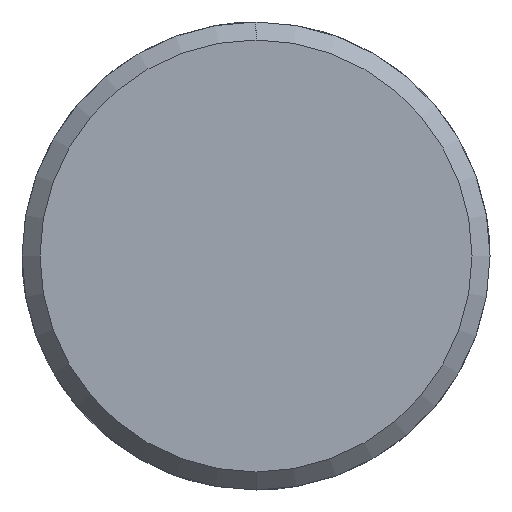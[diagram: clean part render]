
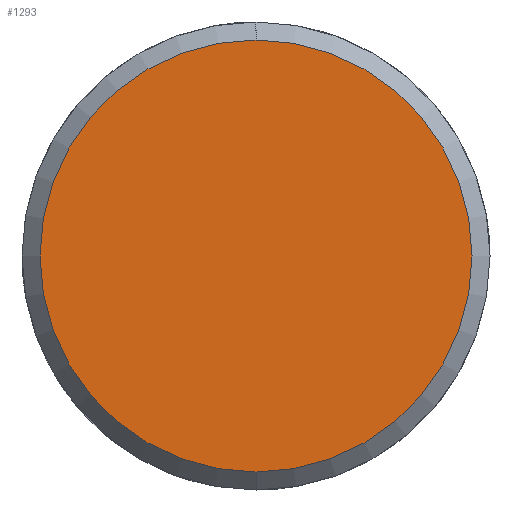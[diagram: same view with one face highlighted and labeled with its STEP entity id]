
A CAD part, left-side view. The second image highlights one B-rep face of the part: STEP entity #1293.
In plain terms, the highlighted planar face has unit normal (-1, 0, 0).
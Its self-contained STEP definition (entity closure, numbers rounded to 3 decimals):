
#1225=CARTESIAN_POINT('Vertex',(-5.,0.,-12.)) ;
#1228=CARTESIAN_POINT('Axis2P3D Location',(-5.,0.,0.)) ;
#1232=CARTESIAN_POINT('Vertex',(-5.,12.,0.)) ;
#1235=CARTESIAN_POINT('Axis2P3D Location',(-5.,0.,0.)) ;
#1239=CARTESIAN_POINT('Vertex',(-5.,0.,12.)) ;
#1261=CARTESIAN_POINT('Axis2P3D Location',(-5.,0.,0.)) ;
#1265=CARTESIAN_POINT('Vertex',(-5.,-12.,0.)) ;
#1268=CARTESIAN_POINT('Axis2P3D Location',(-5.,0.,0.)) ;
#1282=CARTESIAN_POINT('Axis2P3D Location',(-5.,0.,0.)) ;
#1229=DIRECTION('Axis2P3D Direction',(1.,0.,-0.)) ;
#1236=DIRECTION('Axis2P3D Direction',(1.,0.,-0.)) ;
#1262=DIRECTION('Axis2P3D Direction',(1.,0.,-0.)) ;
#1269=DIRECTION('Axis2P3D Direction',(1.,0.,-0.)) ;
#1283=DIRECTION('Axis2P3D Direction',(1.,0.,-0.)) ;
#1284=DIRECTION('Axis2P3D XDirection',(-0.,0.,-1.)) ;
#1230=AXIS2_PLACEMENT_3D('Circle Axis2P3D',#1228,#1229,$) ;
#1237=AXIS2_PLACEMENT_3D('Circle Axis2P3D',#1235,#1236,$) ;
#1263=AXIS2_PLACEMENT_3D('Circle Axis2P3D',#1261,#1262,$) ;
#1270=AXIS2_PLACEMENT_3D('Circle Axis2P3D',#1268,#1269,$) ;
#1285=AXIS2_PLACEMENT_3D('Plane Axis2P3D',#1282,#1283,#1284) ;
#1288=ORIENTED_EDGE('',*,*,#1234,.F.) ;
#1289=ORIENTED_EDGE('',*,*,#1272,.F.) ;
#1290=ORIENTED_EDGE('',*,*,#1267,.F.) ;
#1291=ORIENTED_EDGE('',*,*,#1241,.F.) ;
#1293=ADVANCED_FACE('351-16X56X140',(#1292),#1286,.F.) ;
#1231=CIRCLE('generated circle',#1230,12.) ;
#1238=CIRCLE('generated circle',#1237,12.) ;
#1264=CIRCLE('generated circle',#1263,12.) ;
#1271=CIRCLE('generated circle',#1270,12.) ;
#1234=EDGE_CURVE('',#1226,#1233,#1231,.T.) ;
#1241=EDGE_CURVE('',#1233,#1240,#1238,.T.) ;
#1267=EDGE_CURVE('',#1240,#1266,#1264,.T.) ;
#1272=EDGE_CURVE('',#1266,#1226,#1271,.T.) ;
#1287=EDGE_LOOP('',(#1288,#1289,#1290,#1291)) ;
#1292=FACE_OUTER_BOUND('',#1287,.T.) ;
#1286=PLANE('Plane',#1285) ;
#1226=VERTEX_POINT('',#1225) ;
#1233=VERTEX_POINT('',#1232) ;
#1240=VERTEX_POINT('',#1239) ;
#1266=VERTEX_POINT('',#1265) ;
